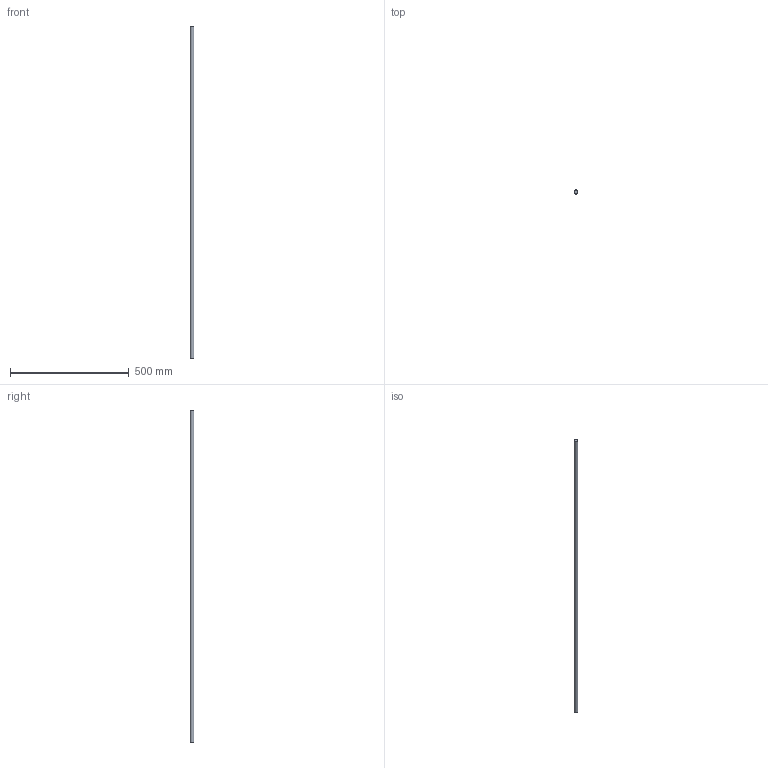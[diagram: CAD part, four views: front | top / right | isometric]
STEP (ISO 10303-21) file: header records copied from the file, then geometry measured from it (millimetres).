
FILE_DESCRIPTION(/* description */ (''),/* implementation_level */ '2;1');
FILE_NAME(/* name */ 'C:\Users\David\Desktop\stepFiles\Profilfuehrung\WF16x1400.stp',/* time_stamp */ '2018-06-24T15:46:56+02:00',/* author */ ('David'),/* organization */ (''),/* preprocessor_version */ 'ST-DEVELOPER v17',/* originating_system */ 'Autodesk Inventor 2019',/* authorisation */ '');
FILE_SCHEMA (('AUTOMOTIVE_DESIGN { 1 0 10303 214 3 1 1 }'));
Length unit declared in the file: millimetre
Products named in the file (1): Wellenfuehrung
Bounding box: 16 x 16 x 1400 mm (x, y, z)
Volume: 281486.7 mm3; surface area: 70773.8 mm2
Topology: 1 solids, 1 shells, 3 faces, 3 edges, 2 vertices
Faces by surface type: plane 2, cylinder 1
Full cylindrical faces by diameter (mm): 16 x1
Entity records: 98 total; most frequent: DIRECTION 13, CARTESIAN_POINT 9, ORIENTED_EDGE 6, AXIS2_PLACEMENT_3D 6, FACE_OUTER_BOUND 3, EDGE_LOOP 3, EDGE_CURVE 3, ADVANCED_FACE 3
